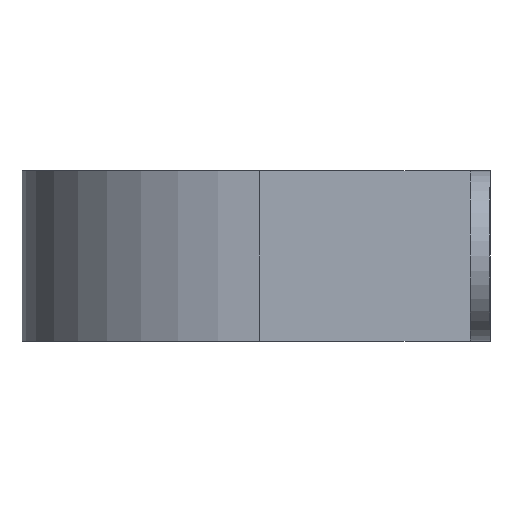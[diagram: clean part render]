
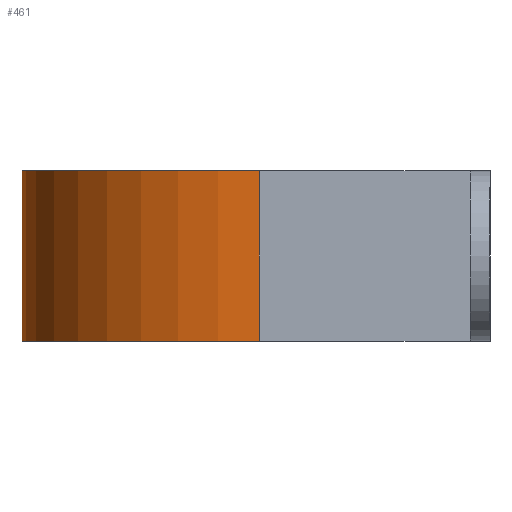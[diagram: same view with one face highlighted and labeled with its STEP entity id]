
A CAD part, left-side view. The second image highlights one B-rep face of the part: STEP entity #461.
In plain terms, the highlighted cylindrical face has radius 27.8 mm (diameter 55.6 mm), a partial arc.
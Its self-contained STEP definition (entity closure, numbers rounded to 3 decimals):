
#19 = DIRECTION ( 'NONE',  ( 1., 0., 0. ) ) ;
#33 = ORIENTED_EDGE ( 'NONE', *, *, #375, .T. ) ;
#36 = EDGE_CURVE ( 'NONE', #817, #482, #426, .T. ) ;
#38 = FACE_OUTER_BOUND ( 'NONE', #107, .T. ) ;
#43 = VECTOR ( 'NONE', #123, 1000. ) ;
#61 = AXIS2_PLACEMENT_3D ( 'NONE', #834, #195, #480 ) ;
#99 = CARTESIAN_POINT ( 'NONE',  ( -27.8, 27., 10. ) ) ;
#107 = EDGE_LOOP ( 'NONE', ( #421, #308, #382, #33 ) ) ;
#123 = DIRECTION ( 'NONE',  ( 0., 0., -1. ) ) ;
#192 = CYLINDRICAL_SURFACE ( 'NONE', #451, 27.8 ) ;
#195 = DIRECTION ( 'NONE',  ( 0., 0., 1. ) ) ;
#217 = CARTESIAN_POINT ( 'NONE',  ( -27.8, 27., 10. ) ) ;
#238 = EDGE_CURVE ( 'NONE', #876, #815, #928, .T. ) ;
#263 = DIRECTION ( 'NONE',  ( 0., 0., -1. ) ) ;
#308 = ORIENTED_EDGE ( 'NONE', *, *, #322, .F. ) ;
#322 = EDGE_CURVE ( 'NONE', #482, #815, #450, .T. ) ;
#374 = CARTESIAN_POINT ( 'NONE',  ( 0., 27., -10. ) ) ;
#375 = EDGE_CURVE ( 'NONE', #817, #876, #763, .T. ) ;
#382 = ORIENTED_EDGE ( 'NONE', *, *, #36, .F. ) ;
#421 = ORIENTED_EDGE ( 'NONE', *, *, #238, .T. ) ;
#426 = CIRCLE ( 'NONE', #61, 27.8 ) ;
#450 = LINE ( 'NONE', #99, #541 ) ;
#451 = AXIS2_PLACEMENT_3D ( 'NONE', #476, #263, #549 ) ;
#461 = ADVANCED_FACE ( 'NONE', ( #38 ), #192, .T. ) ;
#476 = CARTESIAN_POINT ( 'NONE',  ( 0., 27., 10. ) ) ;
#480 = DIRECTION ( 'NONE',  ( -1., 0., 0. ) ) ;
#482 = VERTEX_POINT ( 'NONE', #217 ) ;
#508 = CARTESIAN_POINT ( 'NONE',  ( 27.8, 27., -10. ) ) ;
#541 = VECTOR ( 'NONE', #864, 1000. ) ;
#549 = DIRECTION ( 'NONE',  ( -1., 0., 0. ) ) ;
#609 = CARTESIAN_POINT ( 'NONE',  ( 27.8, 27., 10. ) ) ;
#635 = CARTESIAN_POINT ( 'NONE',  ( -27.8, 27., -10. ) ) ;
#649 = AXIS2_PLACEMENT_3D ( 'NONE', #374, #875, #19 ) ;
#763 = LINE ( 'NONE', #609, #43 ) ;
#775 = CARTESIAN_POINT ( 'NONE',  ( 27.8, 27., 10. ) ) ;
#815 = VERTEX_POINT ( 'NONE', #635 ) ;
#817 = VERTEX_POINT ( 'NONE', #775 ) ;
#834 = CARTESIAN_POINT ( 'NONE',  ( 0., 27., 10. ) ) ;
#864 = DIRECTION ( 'NONE',  ( 0., 0., -1. ) ) ;
#875 = DIRECTION ( 'NONE',  ( 0., 0., 1. ) ) ;
#876 = VERTEX_POINT ( 'NONE', #508 ) ;
#928 = CIRCLE ( 'NONE', #649, 27.8 ) ;
